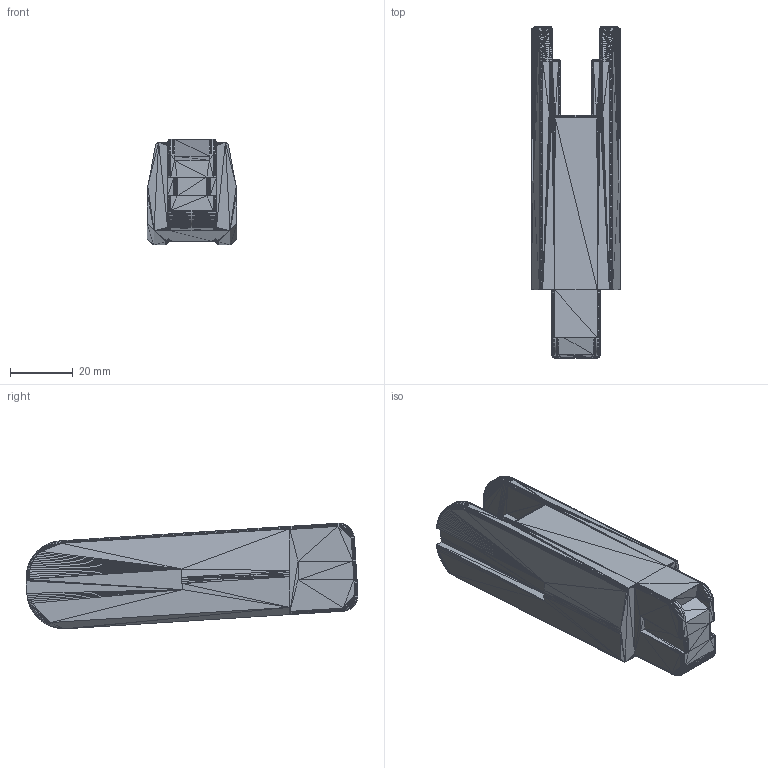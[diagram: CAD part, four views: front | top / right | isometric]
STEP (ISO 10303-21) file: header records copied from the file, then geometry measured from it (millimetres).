
FILE_DESCRIPTION((''),'2;1');
FILE_NAME('Index Finger P1 Join', '2025-03-27T07:44:35', (''), (''), 'ImageToStl.com STEP Converter','', '');
FILE_SCHEMA(('AUTOMOTIVE_DESIGN_CC2'));
Length unit declared in the file: metre
Products named in the file (1): product0
Bounding box: 28.5 x 105.49 x 33.53 mm (x, y, z)
Surface area: 13195.9 mm2 (no closed solid volume)
Topology: 0 solids, 15048 shells, 15048 faces, 45144 edges, 7526 vertices
Faces by surface type: plane 15048
Entity records: 361191 total; most frequent: DIRECTION 75242, ORIENTED_EDGE 45144, EDGE_CURVE 45144, LINE 45144, VECTOR 45144, AXIS2_PLACEMENT_3D 15049, STYLED_ITEM 15049, FACE_SURFACE 15048
